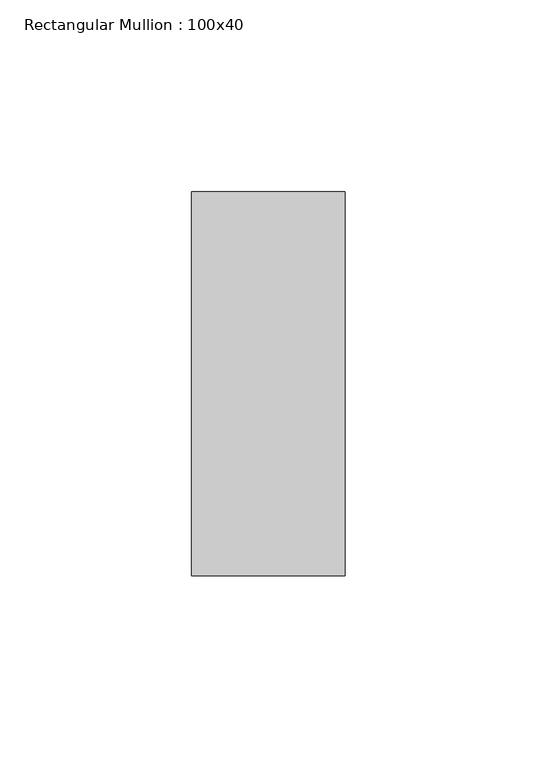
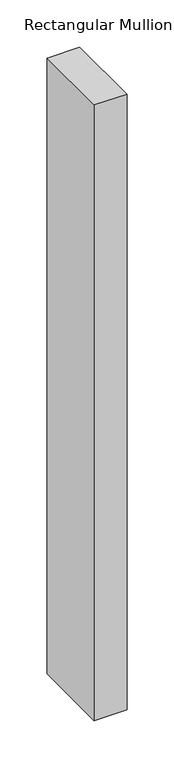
"""IFC4 building model written with IfcOpenShell, lengths in millimetres: member geometry, Rectangular Mullion : 100x40."""

from ifc_helpers import new_model, si_unit, frame, origin, place, context, project, spatial, polyline, outline, extrude, source, transform, mapped, element, save


def rectangular_mullion_100x40_3ba3ef1f(model_context):
    return source(origin(), model_context, "Body", "SweptSolid", [
        extrude(outline(polyline([(0.0, 50.0), (0.0, -50.0), (-40.0, -50.0), (-40.0, 50.0), (0.0, 50.0)])), frame((0.0, 0.0, -796.6666667), z_axis=(0.0, 0.0, 1.0), x_axis=(1.0, 0.0, 0.0)), (0.0, 0.0, 1.0), 796.6666667),
    ])


if __name__ == "__main__":
    model = new_model("IFC4")
    model_context = context("Model", 3, world=origin())
    ifc_project = project(units=[si_unit("LENGTHUNIT", "METRE", prefix="MILLI")], contexts=[model_context])
    site = spatial("IfcSite", under=ifc_project)
    building = spatial("IfcBuilding", under=site)
    placement = place(None, origin())
    rectangular_mullion_100x40_shape = rectangular_mullion_100x40_3ba3ef1f(model_context)
    element("IfcMember", 1, ObjectType="Rectangular Mullion : 100x40", at=placement, inside=building, context=model_context, shape_type="MappedRepresentation", body=[
        mapped(rectangular_mullion_100x40_shape, transform((0.0, 0.0, 0.0), x_axis=(1.0, 0.0, 0.0), y_axis=(0.0, 1.0, 0.0), z_axis=(0.0, 0.0, 1.0))),
    ])
    save(model, "model.ifc")
